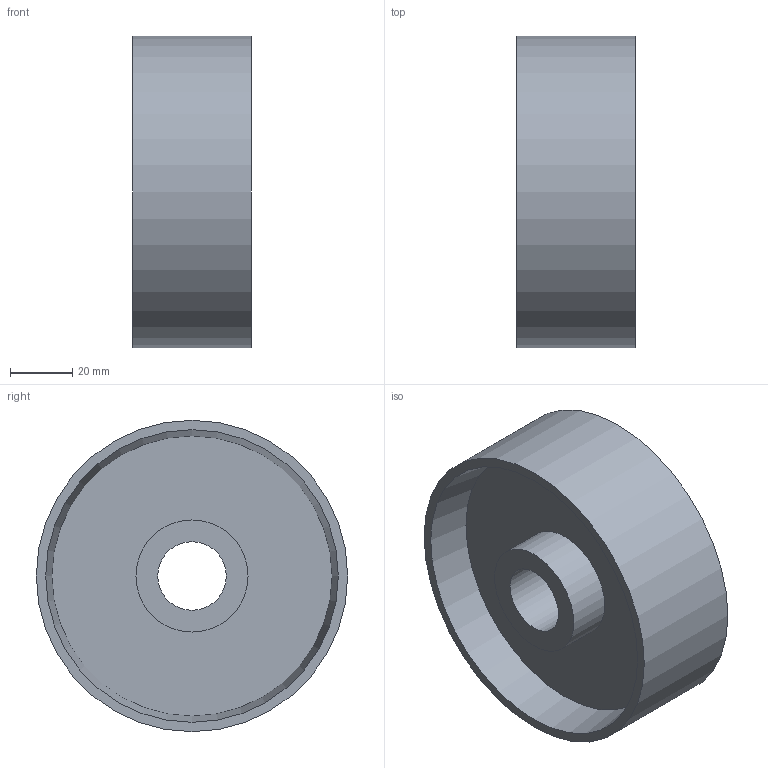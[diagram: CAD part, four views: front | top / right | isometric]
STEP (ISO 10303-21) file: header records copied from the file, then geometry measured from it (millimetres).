
FILE_DESCRIPTION(/* description */ (''),/* implementation_level */ '2;1');
FILE_NAME(/* name */ 'C:\Users\user\Documents\EIA\Cursos\Expresión Gráfica\Prácticas\Ensamble rueda\PT2 - Rueda.stp',/* time_stamp */ '2020-04-25T01:03:08-05:00',/* author */ ('user'),/* organization */ (''),/* preprocessor_version */ 'ST-DEVELOPER v18',/* originating_system */ 'Autodesk Inventor 2020',/* authorisation */ '');
FILE_SCHEMA (('AUTOMOTIVE_DESIGN { 1 0 10303 214 3 1 1 }'));
Length unit declared in the file: millimetre
Products named in the file (1): PT2 - Rueda
Bounding box: 38 x 100 x 100 mm (x, y, z)
Volume: 128049.6 mm3; surface area: 39024.8 mm2
Topology: 1 solids, 1 shells, 14 faces, 38 edges, 30 vertices
Faces by surface type: plane 6, cylinder 4, torus 2, cone 2
Full cylindrical faces by diameter (mm): 22 x1, 36 x2, 100 x1
Entity records: 531 total; most frequent: DIRECTION 100, CARTESIAN_POINT 83, ORIENTED_EDGE 76, AXIS2_PLACEMENT_3D 47, EDGE_CURVE 38, CIRCLE 32, VERTEX_POINT 30, EDGE_LOOP 20
